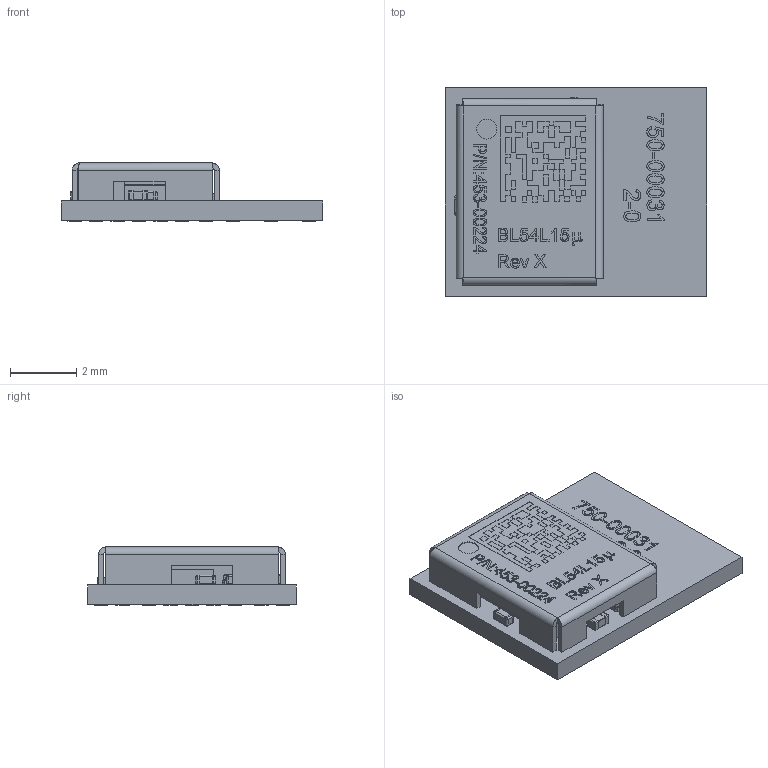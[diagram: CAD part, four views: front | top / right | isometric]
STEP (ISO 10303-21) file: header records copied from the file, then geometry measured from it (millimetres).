
FILE_DESCRIPTION (( 'STEP AP214' ), '1' );
FILE_NAME ('453-00224.STEP', '2026-05-25T09:03:42', ( '' ), ( '' ), 'SwSTEP 2.0', 'SolidWorks 2025', '' );
FILE_SCHEMA (( 'AUTOMOTIVE_DESIGN' ));
Length unit declared in the file: millimetre
Products named in the file (4): 110-00009_453-00224; 940-00073_Laser; 750-00031-11118847_940-00073-RF Trace Pin; 453-00224
Assembly tree (3 placements, depth 3):
  453-00224
    940-00073_Laser
      750-00031-11118847_940-00073-RF Trace Pin
      110-00009_453-00224
Bounding box: 7.9 x 6.3 x 1.76 mm (x, y, z)
Volume: 39.9 mm3; surface area: 255.2 mm2
Topology: 99 solids, 99 shells, 1781 faces, 4274 edges, 2725 vertices
Faces by surface type: plane 1234, bspline 303, cylinder 188, sphere 56
Entity records: 84491 total; most frequent: CARTESIAN_POINT 25267, ORIENTED_EDGE 8436, DIRECTION 6986, EDGE_CURVE 4218, VECTOR 3256, LINE 3256, VERTEX_POINT 2725, EDGE_LOOP 1871
